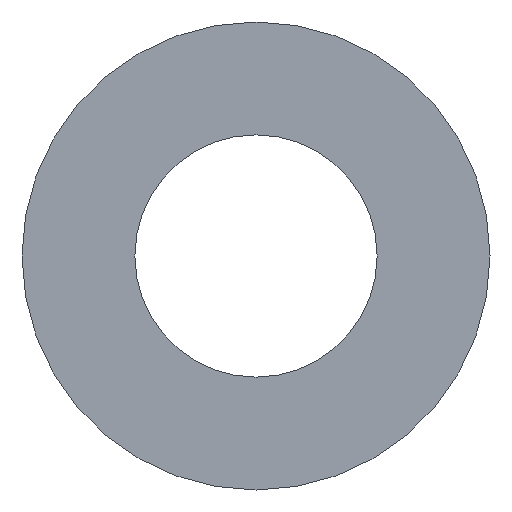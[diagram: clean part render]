
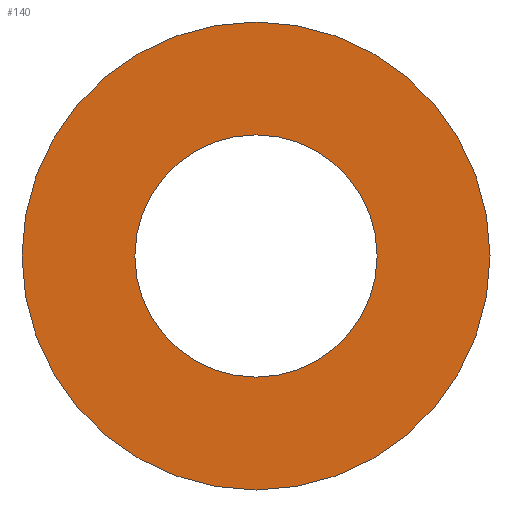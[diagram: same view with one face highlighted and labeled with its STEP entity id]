
A CAD part, left-side view. The second image highlights one B-rep face of the part: STEP entity #140.
In plain terms, the highlighted planar face has unit normal (-1, 0, 0).
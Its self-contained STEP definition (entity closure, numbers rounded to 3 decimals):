
#31 = CYLINDRICAL_SURFACE('',#32,8.5);
#32 = AXIS2_PLACEMENT_3D('',#33,#34,#35);
#33 = CARTESIAN_POINT('',(6.1,0.,0.));
#34 = DIRECTION('',(1.,0.,0.));
#35 = DIRECTION('',(-0.,0.,1.));
#56 = VERTEX_POINT('',#57);
#57 = CARTESIAN_POINT('',(6.1,0.,8.5));
#78 = EDGE_CURVE('',#56,#56,#79,.T.);
#79 = SURFACE_CURVE('',#80,(#85,#92),.PCURVE_S1.);
#80 = CIRCLE('',#81,8.5);
#81 = AXIS2_PLACEMENT_3D('',#82,#83,#84);
#82 = CARTESIAN_POINT('',(6.1,0.,0.));
#83 = DIRECTION('',(1.,0.,0.));
#84 = DIRECTION('',(-0.,0.,1.));
#85 = PCURVE('',#31,#86);
#86 = DEFINITIONAL_REPRESENTATION('',(#87),#91);
#87 = LINE('',#88,#89);
#88 = CARTESIAN_POINT('',(0.,0.));
#89 = VECTOR('',#90,1.);
#90 = DIRECTION('',(1.,0.));
#91 = ( GEOMETRIC_REPRESENTATION_CONTEXT(2) 
PARAMETRIC_REPRESENTATION_CONTEXT() REPRESENTATION_CONTEXT('2D SPACE',''
  ) );
#92 = PCURVE('',#93,#98);
#93 = PLANE('',#94);
#94 = AXIS2_PLACEMENT_3D('',#95,#96,#97);
#95 = CARTESIAN_POINT('',(6.1,0.,0.));
#96 = DIRECTION('',(1.,0.,0.));
#97 = DIRECTION('',(-0.,0.,1.));
#98 = DEFINITIONAL_REPRESENTATION('',(#99),#103);
#99 = CIRCLE('',#100,8.5);
#100 = AXIS2_PLACEMENT_2D('',#101,#102);
#101 = CARTESIAN_POINT('',(0.,0.));
#102 = DIRECTION('',(1.,0.));
#103 = ( GEOMETRIC_REPRESENTATION_CONTEXT(2) 
PARAMETRIC_REPRESENTATION_CONTEXT() REPRESENTATION_CONTEXT('2D SPACE',''
  ) );
#129 = CYLINDRICAL_SURFACE('',#130,4.4);
#130 = AXIS2_PLACEMENT_3D('',#131,#132,#133);
#131 = CARTESIAN_POINT('',(5.1,0.,0.));
#132 = DIRECTION('',(1.,0.,0.));
#133 = DIRECTION('',(-0.,0.,1.));
#140 = ADVANCED_FACE('',(#141,#144),#93,.F.);
#141 = FACE_BOUND('',#142,.F.);
#142 = EDGE_LOOP('',(#143));
#143 = ORIENTED_EDGE('',*,*,#78,.T.);
#144 = FACE_BOUND('',#145,.F.);
#145 = EDGE_LOOP('',(#146));
#146 = ORIENTED_EDGE('',*,*,#147,.F.);
#147 = EDGE_CURVE('',#148,#148,#150,.T.);
#148 = VERTEX_POINT('',#149);
#149 = CARTESIAN_POINT('',(6.1,0.,4.4));
#150 = SURFACE_CURVE('',#151,(#156,#163),.PCURVE_S1.);
#151 = CIRCLE('',#152,4.4);
#152 = AXIS2_PLACEMENT_3D('',#153,#154,#155);
#153 = CARTESIAN_POINT('',(6.1,0.,0.));
#154 = DIRECTION('',(1.,0.,0.));
#155 = DIRECTION('',(-0.,0.,1.));
#156 = PCURVE('',#93,#157);
#157 = DEFINITIONAL_REPRESENTATION('',(#158),#162);
#158 = CIRCLE('',#159,4.4);
#159 = AXIS2_PLACEMENT_2D('',#160,#161);
#160 = CARTESIAN_POINT('',(0.,0.));
#161 = DIRECTION('',(1.,0.));
#162 = ( GEOMETRIC_REPRESENTATION_CONTEXT(2) 
PARAMETRIC_REPRESENTATION_CONTEXT() REPRESENTATION_CONTEXT('2D SPACE',''
  ) );
#163 = PCURVE('',#129,#164);
#164 = DEFINITIONAL_REPRESENTATION('',(#165),#169);
#165 = LINE('',#166,#167);
#166 = CARTESIAN_POINT('',(0.,1.));
#167 = VECTOR('',#168,1.);
#168 = DIRECTION('',(1.,0.));
#169 = ( GEOMETRIC_REPRESENTATION_CONTEXT(2) 
PARAMETRIC_REPRESENTATION_CONTEXT() REPRESENTATION_CONTEXT('2D SPACE',''
  ) );
